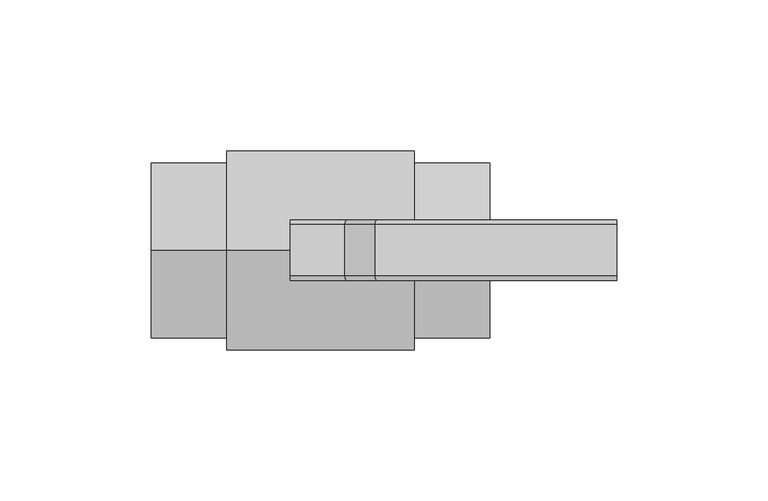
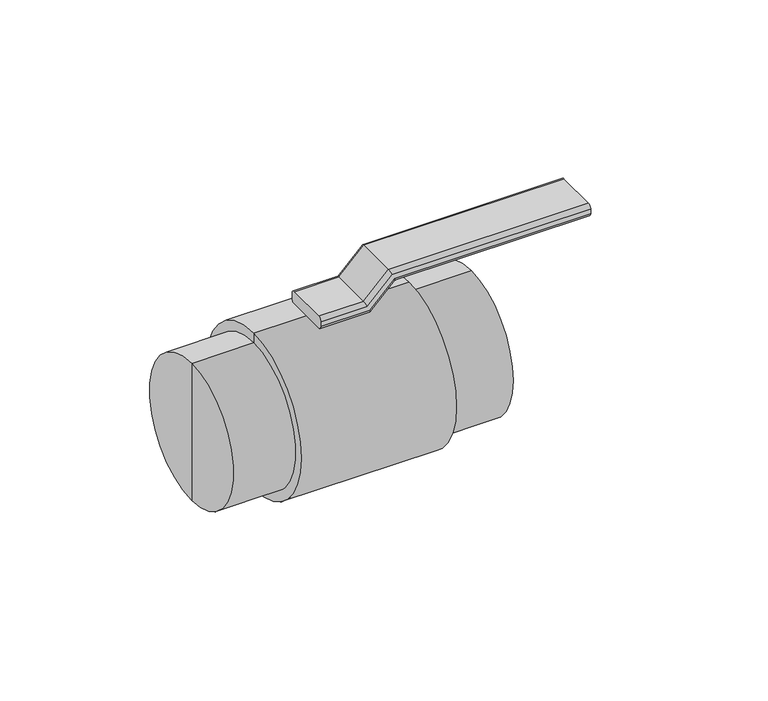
"""IFC4 building model written with IfcOpenShell, lengths in millimetres: valve geometry, NIRON RED valvula de paso esfera : Estándar."""

import ifcopenshell
import ifcopenshell.guid

model = None  # the IFC model being written
_history = None  # IfcOwnerHistory: only IFC2X3 demands one
_inside = {}  # id of a spatial element -> (the spatial element, [elements in it])
_under = {}  # id of a project, library or spatial element -> (it, [spatial elements below it])
_declared = {}  # id of a project -> (the project, [libraries it declares])
_typed = {}  # id of a type object -> (the type object, [elements of that type])
_made_of = {}  # id of a material, layer set ... -> (it, [elements and type objects made of it])


def new_model(schema):
    """Start an empty IFC model of exactly this schema.

    Asked for "IFC4X3", IfcOpenShell would pick the latest addendum, in which some entities
    have other attributes; the version numbers below select the first issue.
    IFC2X3 requires an IfcOwnerHistory on every rooted entity: one is made here for all.
    """
    global model, _history
    if schema == "IFC4X3":
        model = ifcopenshell.file(schema_version=(4, 3, 0, 0))
    else:
        model = ifcopenshell.file(schema=schema)
    _inside.clear()
    _under.clear()
    _declared.clear()
    _typed.clear()
    _made_of.clear()
    _history = None
    if model.schema == "IFC2X3":
        org = make("IfcOrganization", Name="unknown")
        user = make(
            "IfcPersonAndOrganization",
            ThePerson=make("IfcPerson", FamilyName="unknown"),
            TheOrganization=org,
        )
        app = make(
            "IfcApplication",
            ApplicationDeveloper=org,
            Version="unknown",
            ApplicationFullName="unknown",
            ApplicationIdentifier="unknown",
        )
        _history = make(
            "IfcOwnerHistory",
            OwningUser=user,
            OwningApplication=app,
            ChangeAction="ADDED",
            CreationDate=0,
        )
    return model


def make(cls, **values):
    """One entity of the class cls with the attributes given. An attribute that is None is left unset."""
    return model.create_entity(
        cls, **{name: value for name, value in values.items() if value is not None}
    )


def rooted(cls, **values):
    """An entity with a GlobalId (a new one), such as an element, a storey or a relation."""
    return make(cls, GlobalId=ifcopenshell.guid.new(), OwnerHistory=_history, **values)


def si_unit(unit_type, name, prefix=None):
    """IfcSIUnit, for example si_unit("LENGTHUNIT", "METRE", prefix="MILLI")."""
    return make("IfcSIUnit", UnitType=unit_type, Prefix=prefix, Name=name)


def assignment(units):
    """IfcUnitAssignment: the units of a project."""
    return None if units is None else make("IfcUnitAssignment", Units=units)


def point(xyz):
    """IfcCartesianPoint."""
    return None if xyz is None else make("IfcCartesianPoint", Coordinates=xyz)


def direction(xyz):
    """IfcDirection."""
    return None if xyz is None else make("IfcDirection", DirectionRatios=xyz)


def frame(location, z_axis=None, x_axis=None):
    """IfcAxis2Placement3D, a coordinate frame: its origin and axes. An axis left out is left unset."""
    return make(
        "IfcAxis2Placement3D",
        Location=point(location),
        Axis=direction(z_axis),
        RefDirection=direction(x_axis),
    )


def origin():
    """The frame at (0, 0, 0) with its axes left unset."""
    return frame((0.0, 0.0, 0.0))


def place(relative_to, where):
    """IfcLocalPlacement: puts the frame where relative to a parent placement (None: the world)."""
    return make(
        "IfcLocalPlacement", PlacementRelTo=relative_to, RelativePlacement=where
    )


def context(
    kind, dimensions, precision=None, world=None, true_north=None, identifier=None
):
    """IfcGeometricRepresentationContext, for example the 3D "Model" context."""
    return make(
        "IfcGeometricRepresentationContext",
        ContextIdentifier=identifier,
        ContextType=kind,
        CoordinateSpaceDimension=dimensions,
        Precision=precision,
        WorldCoordinateSystem=world,
        TrueNorth=true_north,
    )


def project(units=None, contexts=None):
    """IfcProject with its units and contexts."""
    return rooted(
        "IfcProject",
        Name="project",
        RepresentationContexts=contexts,
        UnitsInContext=assignment(units),
    )


def spatial(cls, under=None, at=None, **own):
    """A site, building, storey or space (cls), placed at a placement, below another one or the project."""
    s = rooted(cls, ObjectPlacement=at, **own)
    if under is not None:
        _under.setdefault(under.id(), (under, []))[1].append(s)
    return s


def circle_curve(where, radius):
    """IfcCircle in the frame where."""
    return make("IfcCircle", Position=where, Radius=radius)


def ellipse_curve(where, semi_axis1, semi_axis2):
    """IfcEllipse in the frame where."""
    return make(
        "IfcEllipse", Position=where, SemiAxis1=semi_axis1, SemiAxis2=semi_axis2
    )


def shape(context_of_items, identifier, shape_type, items):
    """IfcShapeRepresentation: the items that make up one representation, for example the "Body"."""
    return make(
        "IfcShapeRepresentation",
        ContextOfItems=context_of_items,
        RepresentationIdentifier=identifier,
        RepresentationType=shape_type,
        Items=items,
    )


def source(mapping_origin, context_of_items, identifier, shape_type, items):
    """IfcRepresentationMap: a shape defined once, which mapped items show again and again."""
    return make(
        "IfcRepresentationMap",
        MappingOrigin=mapping_origin,
        MappedRepresentation=shape(context_of_items, identifier, shape_type, items),
    )


def transform(
    local_origin,
    x_axis=None,
    y_axis=None,
    z_axis=None,
    scale=None,
    scale2=None,
    scale3=None,
    uniform=True,
):
    """IfcCartesianTransformationOperator3D, or its non-uniform kind. x_axis, y_axis, z_axis: its Axis1, 2, 3."""
    if uniform:
        return make(
            "IfcCartesianTransformationOperator3D",
            Axis1=direction(x_axis),
            Axis2=direction(y_axis),
            LocalOrigin=point(local_origin),
            Scale=scale,
            Axis3=direction(z_axis),
        )
    return make(
        "IfcCartesianTransformationOperator3DnonUniform",
        Axis1=direction(x_axis),
        Axis2=direction(y_axis),
        LocalOrigin=point(local_origin),
        Scale=scale,
        Axis3=direction(z_axis),
        Scale2=scale2,
        Scale3=scale3,
    )


def mapped(mapping_source, mapping_target):
    """IfcMappedItem: shows the shape of a source again, moved by a transform."""
    return make(
        "IfcMappedItem", MappingSource=mapping_source, MappingTarget=mapping_target
    )


def made_of(thing, what):
    """Note that an element or type object is made of a material, layer set ...; save() writes the relation."""
    if what is not None:
        _made_of.setdefault(what.id(), (what, []))[1].append(thing)
    return thing


def element(
    cls,
    number,
    at=None,
    inside=None,
    cuts=None,
    type_object=None,
    material=None,
    context=None,
    identifier="Body",
    shape_type=None,
    held_by="IfcProductDefinitionShape",
    body=None,
    shapes=None,
    **own,
):
    """One element of the class cls, such as IfcWall. Its Tag is "e" and its number.

    at: its placement. inside: the storey or other place that contains it. cuts: it is an
    opening in that element (IfcRelVoidsElement). A single representation is given by context,
    identifier, shape_type and body (its items); several are given by shapes. held_by: the class
    of the entity that holds the representations. save() writes the other relations.
    """
    e = rooted(cls, Tag="e%d" % number, ObjectPlacement=at, **own)
    if body is not None:
        shapes = [shape(context, identifier, shape_type, body)]
    if shapes is not None:
        e.Representation = make(held_by, Representations=shapes)
    if inside is not None:
        _inside.setdefault(inside.id(), (inside, []))[1].append(e)
    if cuts is not None:
        rooted(
            "IfcRelVoidsElement", RelatingBuildingElement=cuts, RelatedOpeningElement=e
        )
    if type_object is not None:
        _typed.setdefault(type_object.id(), (type_object, []))[1].append(e)
    return made_of(e, material)


def aggregate(whole, parts):
    """IfcRelAggregates: a whole, such as a stair, and the parts it consists of."""
    return rooted("IfcRelAggregates", RelatingObject=whole, RelatedObjects=parts)


def save(model, path):
    """Write the relations noted so far, then the file.

    IfcRelAggregates (storeys below a building ...), IfcRelContainedInSpatialStructure (elements
    in a storey), IfcRelDefinesByType, IfcRelAssociatesMaterial and IfcRelDeclares: one each for
    every whole, place, type object, material and project.
    """
    for whole, parts in _under.values():
        aggregate(whole, parts)
    for where, things in _inside.values():
        rooted(
            "IfcRelContainedInSpatialStructure",
            RelatedElements=things,
            RelatingStructure=where,
        )
    for kind, things in _typed.values():
        rooted("IfcRelDefinesByType", RelatedObjects=things, RelatingType=kind)
    for what, things in _made_of.values():
        rooted("IfcRelAssociatesMaterial", RelatedObjects=things, RelatingMaterial=what)
    for by, libraries in _declared.values():
        rooted("IfcRelDeclares", RelatingContext=by, RelatedDefinitions=libraries)
    model.write(path)


def plane_surface(at):
    """IfcPlane: the flat surface through the origin of the frame at, square to its z axis."""
    return make("IfcPlane", Position=at)


def cylinder_surface(at, radius):
    """IfcCylindricalSurface: all points at the distance radius from the z axis of the frame at."""
    return make("IfcCylindricalSurface", Position=at, Radius=radius)


def advanced_brep(points, edges, surfaces, faces):
    """IfcAdvancedBrep: a solid bounded by faces that lie on surfaces and meet in shared edges.

    An edge is (start, end): straight between two places in points (the first is 0);
    or (start, end, curve); or (start, end, curve, False) where it runs against its curve.
    A face is (place in surfaces, loops), or (place, loops, False) where it looks against
    its surface's normal. A loop lists edges by number (the first is 1), with a minus sign
    where the edge is run from its end to its start. The first loop is the outer one.
    """
    corners = [point(p) for p in points]
    vertices = [make("IfcVertexPoint", VertexGeometry=c) for c in corners]
    made = []
    for start, end, *more in edges:
        made.append(
            make(
                "IfcEdgeCurve",
                EdgeStart=vertices[start],
                EdgeEnd=vertices[end],
                EdgeGeometry=more[0] if more else make("IfcPolyline", Points=[corners[start], corners[end]]),
                SameSense=more[1] if len(more) > 1 else True,
            )
        )
    hull = []
    for where, loops, *sense in faces:
        bounds = []
        for j, loop in enumerate(loops):
            ring = [make("IfcOrientedEdge", EdgeElement=made[abs(k) - 1], Orientation=k > 0) for k in loop]
            bounds.append(
                make(
                    "IfcFaceOuterBound" if j == 0 else "IfcFaceBound",
                    Bound=make("IfcEdgeLoop", EdgeList=ring),
                    Orientation=True,
                )
            )
        hull.append(make("IfcAdvancedFace", Bounds=bounds, FaceSurface=surfaces[where], SameSense=sense[0] if sense else True))
    return make("IfcAdvancedBrep", Outer=make("IfcClosedShell", CfsFaces=hull))


def valve_e4f85131(model_context):
    return source(origin(), model_context, "Body", "AdvancedBrep", [
        advanced_brep(
        [(-10.0, 8.4844945, 33.0), (-10.0, -8.5, 33.0), (-10.0, -10.0, 34.5), (-10.0, -10.0, 36.5), (-10.0, -8.5, 38.0), (-10.0, 8.5, 38.0), (-10.0, 10.0, 36.5), (-10.0, 10.0, 34.5155055), (10.0, 8.4844945, 33.0), (10.0, -8.5, 33.0), (9.3786797, -10.0, 34.5), (19.3786797, -10.0, 44.5), (98.0, -10.0, 44.5), (98.0, -10.0, 46.5), (18.5502525, -10.0, 46.5), (8.5502525, -10.0, 36.5), (7.9289322, -8.5, 38.0), (7.9289322, 8.5, 38.0), (8.5502525, 10.0, 36.5), (18.5502525, 10.0, 46.5), (98.0, 10.0, 46.5), (98.0, 10.0, 44.5155055), (19.3722571, 10.0, 44.5155055), (9.3722571, 10.0, 34.5155055), (20.0, 8.4844945, 43.0), (20.0, -8.5, 43.0), (17.9289322, -8.5, 48.0), (17.9289322, 8.5, 48.0), (98.0, 8.4844945, 43.0), (98.0, 8.5, 48.0), (98.0, -8.5, 48.0), (98.0, -8.5, 43.0)],
        [
            (0, 1),
            (1, 2, circle_curve(frame((-10.0, -8.5, 34.5), z_axis=(-1.0, 0.0, 0.0), x_axis=(0.0, 0.0, 1.0)), 1.5)),
            (2, 3),
            (3, 4, circle_curve(frame((-10.0, -8.5, 36.5), z_axis=(-1.0, 0.0, 0.0), x_axis=(0.0, 0.0, 1.0)), 1.5)),
            (4, 5),
            (5, 6, circle_curve(frame((-10.0, 8.5, 36.5), z_axis=(-1.0, 0.0, 0.0), x_axis=(0.0, 0.0, 1.0)), 1.5)),
            (6, 7),
            (7, 0, circle_curve(frame((-10.0, 8.4844945, 34.5155055), z_axis=(-1.0, 0.0, 0.0), x_axis=(0.0, 0.0, 1.0)), 1.5155055)),
            (0, 8),
            (8, 9),
            (9, 1),
            (9, 10, ellipse_curve(frame((9.3786797, -8.5, 34.5), z_axis=(-0.9238795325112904, 0.0, -0.38268343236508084), x_axis=(-0.38268343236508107, 0.0, 0.9238795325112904)), 1.6235883, 1.5)),
            (10, 2),
            (10, 11),
            (11, 12),
            (12, 13),
            (13, 14),
            (14, 15),
            (15, 3),
            (15, 16, ellipse_curve(frame((8.5502525, -8.5, 36.5), z_axis=(-0.9238795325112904, 0.0, -0.38268343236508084), x_axis=(-0.38268343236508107, 0.0, 0.9238795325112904)), 1.6235883, 1.5)),
            (16, 4),
            (16, 17),
            (17, 5),
            (17, 18, ellipse_curve(frame((8.5502525, 8.5, 36.5), z_axis=(-0.9238795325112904, 0.0, -0.38268343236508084), x_axis=(-0.38268343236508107, 0.0, 0.9238795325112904)), 1.6235883, 1.5)),
            (18, 6),
            (18, 19),
            (19, 20),
            (20, 21),
            (21, 22),
            (22, 23),
            (23, 7),
            (23, 8, ellipse_curve(frame((9.3722571, 8.4844945, 34.5155055), z_axis=(-0.9238795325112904, 0.0, -0.38268343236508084), x_axis=(-0.38268343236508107, 0.0, 0.9238795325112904)), 1.6403713, 1.5155055)),
            (8, 24),
            (24, 25),
            (25, 9),
            (25, 11, ellipse_curve(frame((19.3786797, -8.5, 44.5), z_axis=(-0.9238795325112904, 0.0, -0.38268343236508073), x_axis=(0.38268343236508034, 0.0, -0.9238795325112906)), 1.6235883, 1.5)),
            (14, 26, ellipse_curve(frame((18.5502525, -8.5, 46.5), z_axis=(-0.9238795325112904, 0.0, -0.38268343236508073), x_axis=(0.38268343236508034, 0.0, -0.9238795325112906)), 1.6235883, 1.5)),
            (26, 16),
            (26, 27),
            (27, 17),
            (27, 19, ellipse_curve(frame((18.5502525, 8.5, 46.5), z_axis=(-0.9238795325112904, 0.0, -0.38268343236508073), x_axis=(0.38268343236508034, 0.0, -0.9238795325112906)), 1.6235883, 1.5)),
            (22, 24, ellipse_curve(frame((19.3722571, 8.4844945, 44.5155055), z_axis=(-0.9238795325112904, 0.0, -0.38268343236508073), x_axis=(0.38268343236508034, 0.0, -0.9238795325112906)), 1.6403713, 1.5155055)),
            (28, 21, circle_curve(frame((98.0, 8.4844945, 44.5155055), z_axis=(1.0, 0.0, 0.0), x_axis=(0.0, 0.0, 1.0)), 1.5155055)),
            (20, 29, circle_curve(frame((98.0, 8.5, 46.5), z_axis=(1.0, 0.0, 0.0), x_axis=(0.0, 0.0, 1.0)), 1.5)),
            (29, 30),
            (30, 13, circle_curve(frame((98.0, -8.5, 46.5), z_axis=(1.0, 0.0, 0.0), x_axis=(0.0, 0.0, 1.0)), 1.5)),
            (12, 31, circle_curve(frame((98.0, -8.5, 44.5), z_axis=(1.0, 0.0, 0.0), x_axis=(0.0, 0.0, 1.0)), 1.5)),
            (31, 28),
            (24, 28),
            (31, 25),
            (30, 26),
            (29, 27),
        ],
        [
            plane_surface(frame((-10.0, 0.0, 33.0), z_axis=(-1.0, 0.0, 0.0), x_axis=(0.0, -1.0, 0.0))),
            plane_surface(frame((-10.0, 8.4844945, 33.0), z_axis=(0.0, 0.0, -1.0), x_axis=(1.0, 0.0, 0.0))),
            cylinder_surface(frame((-10.0, -8.5, 34.5), z_axis=(-1.0, 0.0, 0.0), x_axis=(0.0, 0.0, 1.0)), 1.5),
            plane_surface(frame((-10.0, -10.0, 34.5), z_axis=(0.0, -1.0, 0.0), x_axis=(1.0, 0.0, 0.0))),
            cylinder_surface(frame((-10.0, -8.5, 36.5), z_axis=(-1.0, 0.0, 0.0), x_axis=(0.0, 0.0, 1.0)), 1.5),
            plane_surface(frame((-10.0, -8.5, 38.0), z_axis=(0.0, 0.0, 1.0), x_axis=(1.0, 0.0, 0.0))),
            cylinder_surface(frame((-10.0, 8.5, 36.5), z_axis=(-1.0, 0.0, 0.0), x_axis=(0.0, 0.0, 1.0)), 1.5),
            plane_surface(frame((-10.0, 10.0, 36.5), z_axis=(0.0, 1.0, 0.0), x_axis=(1.0, 0.0, 0.0))),
            cylinder_surface(frame((-10.0, 8.4844945, 34.5155055), z_axis=(-1.0, 0.0, 0.0), x_axis=(0.0, 0.0, 1.0)), 1.5155055),
            plane_surface(frame((10.0, 8.4844945, 33.0), z_axis=(0.7071067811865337, 0.0, -0.7071067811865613), x_axis=(0.7071067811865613, 0.0, 0.7071067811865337))),
            cylinder_surface(frame((8.9393398, -8.5, 34.0606602), z_axis=(-0.7071067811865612, 0.0, -0.7071067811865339), x_axis=(-0.7071067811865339, 0.0, 0.7071067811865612)), 1.5),
            cylinder_surface(frame((7.5251263, -8.5, 35.4748737), z_axis=(-0.7071067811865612, 0.0, -0.7071067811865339), x_axis=(-0.7071067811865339, 0.0, 0.7071067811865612)), 1.5),
            plane_surface(frame((7.9289322, -8.5, 38.0), z_axis=(-0.7071067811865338, 0.0, 0.7071067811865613), x_axis=(0.7071067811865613, 0.0, 0.7071067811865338))),
            cylinder_surface(frame((7.5251263, 8.5, 35.4748737), z_axis=(-0.7071067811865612, 0.0, -0.7071067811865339), x_axis=(-0.7071067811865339, 0.0, 0.7071067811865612)), 1.5),
            cylinder_surface(frame((8.9283758, 8.4844945, 34.0716242), z_axis=(-0.7071067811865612, 0.0, -0.7071067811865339), x_axis=(-0.7071067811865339, 0.0, 0.7071067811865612)), 1.5155055),
            plane_surface(frame((98.0, 0.0, 43.0), z_axis=(1.0, 0.0, 0.0), x_axis=(0.0, -1.0, 0.0))),
            plane_surface(frame((20.0, 8.4844945, 43.0), z_axis=(0.0, 0.0, -1.0), x_axis=(1.0, 0.0, 0.0))),
            cylinder_surface(frame((20.0, -8.5, 44.5), z_axis=(-1.0, 0.0, 0.0), x_axis=(0.0, 0.0, 1.0)), 1.5),
            cylinder_surface(frame((20.0, -8.5, 46.5), z_axis=(-1.0, 0.0, 0.0), x_axis=(0.0, 0.0, 1.0)), 1.5),
            plane_surface(frame((17.9289322, -8.5, 48.0), z_axis=(0.0, 0.0, 1.0), x_axis=(1.0, 0.0, 0.0))),
            cylinder_surface(frame((20.0, 8.5, 46.5), z_axis=(-1.0, 0.0, 0.0), x_axis=(0.0, 0.0, 1.0)), 1.5),
            cylinder_surface(frame((20.0, 8.4844945, 44.5155055), z_axis=(-1.0, 0.0, 0.0), x_axis=(0.0, 0.0, 1.0)), 1.5155055),
        ],
        [
            (0, [[1, 2, 3, 4, 5, 6, 7, 8]]),
            (1, [[-1, 9, 10, 11]]),
            (2, [[-2, -11, 12, 13]]),
            (3, [[-3, -13, 14, 15, 16, 17, 18, 19]]),
            (4, [[-4, -19, 20, 21]]),
            (5, [[-5, -21, 22, 23]]),
            (6, [[-6, -23, 24, 25]]),
            (7, [[-7, -25, 26, 27, 28, 29, 30, 31]]),
            (8, [[-8, -31, 32, -9]]),
            (9, [[-10, 33, 34, 35]]),
            (10, [[-12, -35, 36, -14]]),
            (11, [[-20, -18, 37, 38]]),
            (12, [[-22, -38, 39, 40]]),
            (13, [[-24, -40, 41, -26]]),
            (14, [[-32, -30, 42, -33]]),
            (15, [[43, -28, 44, 45, 46, -16, 47, 48]]),
            (16, [[-34, 49, -48, 50]]),
            (17, [[-36, -50, -47, -15]]),
            (18, [[-37, -17, -46, 51]]),
            (19, [[-39, -51, -45, 52]]),
            (20, [[-41, -52, -44, -27]]),
            (21, [[-42, -29, -43, -49]]),
        ],
    ),
        advanced_brep(
        [(-56.0, 0.0, 0.0), (-56.0, 0.0, 29.0), (-56.0, 0.0, -29.0), (56.0, 0.0, -29.0), (56.0, 0.0, 29.0), (56.0, 0.0, 0.0), (31.0, 0.0, -29.0), (31.0, 0.0, 29.0), (31.0, 0.0, -33.0), (31.0, 0.0, 33.0), (-31.0, 0.0, -33.0), (-31.0, 0.0, 33.0), (-31.0, 0.0, -29.0), (-31.0, 0.0, 29.0)],
        [
            (0, 1),
            (1, 2, circle_curve(frame((-56.0, 0.0, 0.0), z_axis=(-1.0, 0.0, 0.0), x_axis=(0.0, 0.0, 1.0)), 29.0)),
            (2, 0),
            (2, 1, circle_curve(frame((-56.0, 0.0, 0.0), z_axis=(-1.0, 0.0, 0.0), x_axis=(0.0, 0.0, 1.0)), 29.0)),
            (3, 4, circle_curve(frame((56.0, 0.0, 0.0), z_axis=(1.0, 0.0, 0.0), x_axis=(0.0, 0.0, 1.0)), 29.0)),
            (4, 5),
            (5, 3),
            (4, 3, circle_curve(frame((56.0, 0.0, 0.0), z_axis=(1.0, 0.0, 0.0), x_axis=(0.0, 0.0, 1.0)), 29.0)),
            (6, 7, circle_curve(frame((31.0, 0.0, 0.0), z_axis=(1.0, 0.0, 0.0), x_axis=(0.0, 0.0, 1.0)), 29.0)),
            (7, 4),
            (3, 6),
            (7, 6, circle_curve(frame((31.0, 0.0, 0.0), z_axis=(1.0, 0.0, 0.0), x_axis=(0.0, 0.0, 1.0)), 29.0)),
            (8, 9, circle_curve(frame((31.0, 0.0, 0.0), z_axis=(1.0, 0.0, 0.0), x_axis=(0.0, 0.0, 1.0)), 33.0)),
            (9, 7),
            (6, 8),
            (9, 8, circle_curve(frame((31.0, 0.0, 0.0), z_axis=(1.0, 0.0, 0.0), x_axis=(0.0, 0.0, 1.0)), 33.0)),
            (10, 11, circle_curve(frame((-31.0, 0.0, 0.0), z_axis=(1.0, 0.0, 0.0), x_axis=(0.0, 0.0, 1.0)), 33.0)),
            (11, 9),
            (8, 10),
            (11, 10, circle_curve(frame((-31.0, 0.0, 0.0), z_axis=(1.0, 0.0, 0.0), x_axis=(0.0, 0.0, 1.0)), 33.0)),
            (12, 13, circle_curve(frame((-31.0, 0.0, 0.0), z_axis=(1.0, 0.0, 0.0), x_axis=(0.0, 0.0, 1.0)), 29.0)),
            (13, 11),
            (10, 12),
            (13, 12, circle_curve(frame((-31.0, 0.0, 0.0), z_axis=(1.0, 0.0, 0.0), x_axis=(0.0, 0.0, 1.0)), 29.0)),
            (1, 13),
            (12, 2),
        ],
        [
            plane_surface(frame((-56.0, 0.0, 0.0), z_axis=(-1.0, 0.0, 0.0), x_axis=(0.0, 0.0, 1.0))),
            plane_surface(frame((56.0, 0.0, 0.0), z_axis=(1.0, 0.0, 0.0), x_axis=(0.0, 0.0, 1.0))),
            cylinder_surface(frame((-1361.546, 0.0, 0.0), z_axis=(-1.0, 0.0, 0.0), x_axis=(0.0, 0.0, 1.0)), 29.0),
            plane_surface(frame((31.0, 0.0, 0.0), z_axis=(1.0, 0.0, 0.0), x_axis=(0.0, 0.0, 1.0))),
            cylinder_surface(frame((-1361.546, 0.0, 0.0), z_axis=(-1.0, 0.0, 0.0), x_axis=(0.0, 0.0, 1.0)), 33.0),
            plane_surface(frame((-31.0, 0.0, 0.0), z_axis=(-1.0, 0.0, 0.0), x_axis=(0.0, 0.0, 1.0))),
        ],
        [
            (0, [[1, 2, 3]]),
            (0, [[-3, 4, -1]]),
            (1, [[5, 6, 7]]),
            (1, [[8, -7, -6]]),
            (2, [[9, 10, -5, 11]]),
            (2, [[12, -11, -8, -10]]),
            (3, [[13, 14, -9, 15]]),
            (3, [[16, -15, -12, -14]]),
            (4, [[17, 18, -13, 19]]),
            (4, [[20, -19, -16, -18]]),
            (5, [[21, 22, -17, 23]]),
            (5, [[24, -23, -20, -22]]),
            (2, [[-2, 25, -21, 26]]),
            (2, [[-4, -26, -24, -25]]),
        ],
    ),
    ])


if __name__ == "__main__":
    model = new_model("IFC4")
    model_context = context("Model", 3, world=origin())
    ifc_project = project(units=[si_unit("LENGTHUNIT", "METRE", prefix="MILLI")], contexts=[model_context])
    site = spatial("IfcSite", under=ifc_project)
    building = spatial("IfcBuilding", under=site)
    placement = place(None, origin())
    valve_shape = valve_e4f85131(model_context)
    element("IfcValve", 1, ObjectType="NIRON RED valvula de paso esfera : Estándar", at=placement, inside=building, context=model_context, shape_type="MappedRepresentation", body=[
        mapped(valve_shape, transform((0.0, 0.0, 0.0), x_axis=(1.0, 0.0, 0.0), y_axis=(0.0, 1.0, 0.0), z_axis=(0.0, 0.0, 1.0))),
    ])
    save(model, "model.ifc")
